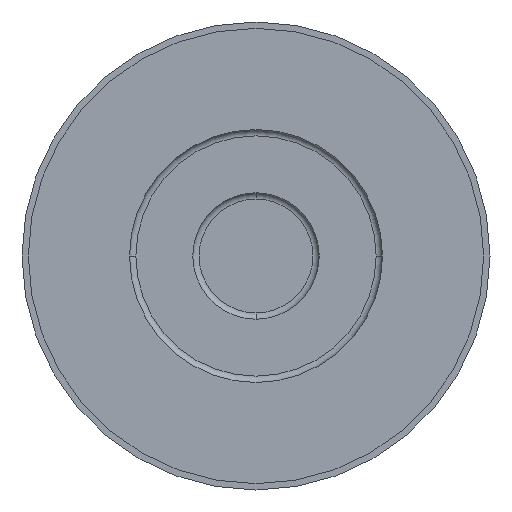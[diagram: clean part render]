
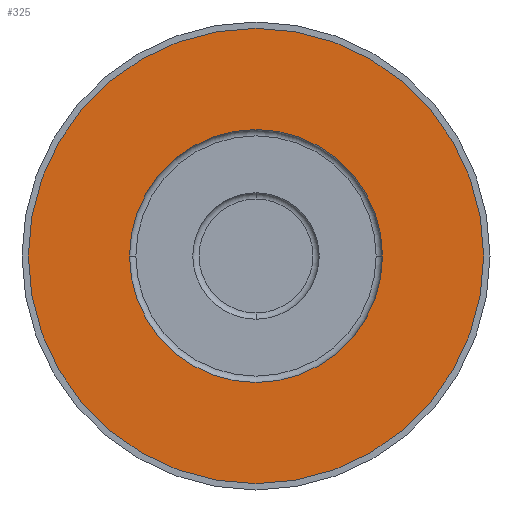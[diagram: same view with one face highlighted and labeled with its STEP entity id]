
A CAD part, front view. The second image highlights one B-rep face of the part: STEP entity #325.
In plain terms, the highlighted planar face has unit normal (0, -1, 0).
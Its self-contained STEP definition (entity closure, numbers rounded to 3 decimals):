
#24 = VERTEX_POINT('',#25);
#25 = CARTESIAN_POINT('',(-18.,0.,0.));
#31 = EDGE_CURVE('',#24,#32,#34,.T.);
#32 = VERTEX_POINT('',#33);
#33 = CARTESIAN_POINT('',(18.,0.,0.));
#34 = CIRCLE('',#35,18.);
#35 = AXIS2_PLACEMENT_3D('',#36,#37,#38);
#36 = CARTESIAN_POINT('',(0.,0.,0.));
#37 = DIRECTION('',(0.,1.,-0.));
#38 = DIRECTION('',(-1.,0.,0.));
#312 = EDGE_CURVE('',#24,#32,#313,.T.);
#313 = CIRCLE('',#314,18.);
#314 = AXIS2_PLACEMENT_3D('',#315,#316,#317);
#315 = CARTESIAN_POINT('',(0.,0.,0.));
#316 = DIRECTION('',(0.,-1.,0.));
#317 = DIRECTION('',(-1.,0.,0.));
#325 = ADVANCED_FACE('',(#326,#330),#350,.T.);
#326 = FACE_BOUND('',#327,.F.);
#327 = EDGE_LOOP('',(#328,#329));
#328 = ORIENTED_EDGE('',*,*,#312,.F.);
#329 = ORIENTED_EDGE('',*,*,#31,.T.);
#330 = FACE_BOUND('',#331,.F.);
#331 = EDGE_LOOP('',(#332,#343));
#332 = ORIENTED_EDGE('',*,*,#333,.F.);
#333 = EDGE_CURVE('',#334,#336,#338,.T.);
#334 = VERTEX_POINT('',#335);
#335 = CARTESIAN_POINT('',(-10.,0.,0.));
#336 = VERTEX_POINT('',#337);
#337 = CARTESIAN_POINT('',(10.,0.,0.));
#338 = CIRCLE('',#339,10.);
#339 = AXIS2_PLACEMENT_3D('',#340,#341,#342);
#340 = CARTESIAN_POINT('',(0.,0.,0.));
#341 = DIRECTION('',(0.,1.,-0.));
#342 = DIRECTION('',(-1.,0.,0.));
#343 = ORIENTED_EDGE('',*,*,#344,.T.);
#344 = EDGE_CURVE('',#334,#336,#345,.T.);
#345 = CIRCLE('',#346,10.);
#346 = AXIS2_PLACEMENT_3D('',#347,#348,#349);
#347 = CARTESIAN_POINT('',(0.,0.,0.));
#348 = DIRECTION('',(0.,-1.,0.));
#349 = DIRECTION('',(-1.,0.,0.));
#350 = PLANE('',#351);
#351 = AXIS2_PLACEMENT_3D('',#352,#353,#354);
#352 = CARTESIAN_POINT('',(0.,0.,0.));
#353 = DIRECTION('',(0.,-1.,0.));
#354 = DIRECTION('',(-1.,0.,0.));
